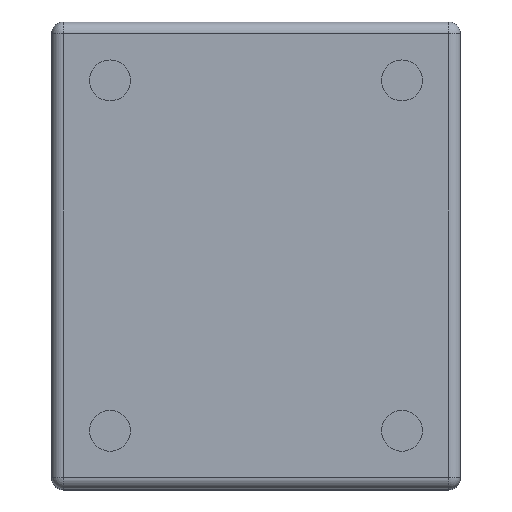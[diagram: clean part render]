
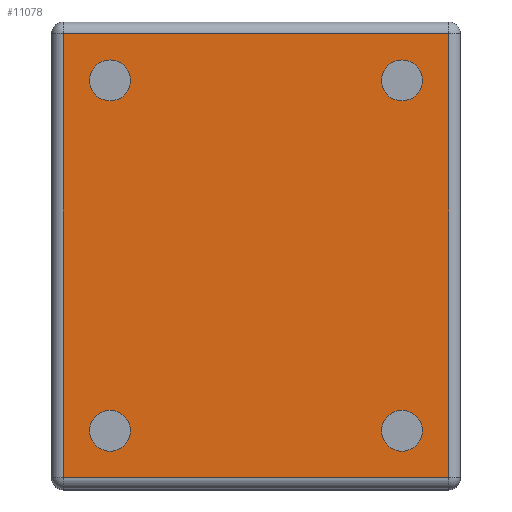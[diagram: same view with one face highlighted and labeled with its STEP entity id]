
A CAD part, front view. The second image highlights one B-rep face of the part: STEP entity #11078.
In plain terms, the highlighted planar face has unit normal (0, -1, 0).
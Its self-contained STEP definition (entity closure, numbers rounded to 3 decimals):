
#112 = EDGE_CURVE ( 'NONE', #21731, #16680, #22714, .T. ) ;
#190 = ORIENTED_EDGE ( 'NONE', *, *, #859, .T. ) ;
#498 = LINE ( 'NONE', #19846, #7107 ) ;
#504 = DIRECTION ( 'NONE',  ( 0., 0., -1. ) ) ;
#663 = VECTOR ( 'NONE', #13866, 1000. ) ;
#732 = ORIENTED_EDGE ( 'NONE', *, *, #975, .T. ) ;
#742 = DIRECTION ( 'NONE',  ( 0., 0., 1. ) ) ;
#849 = DIRECTION ( 'NONE',  ( 0., 1., 0. ) ) ;
#859 = EDGE_CURVE ( 'NONE', #16367, #14725, #20047, .T. ) ;
#861 = DIRECTION ( 'NONE',  ( 1., 0., 0. ) ) ;
#975 = EDGE_CURVE ( 'NONE', #10791, #6045, #7319, .T. ) ;
#1377 = CARTESIAN_POINT ( 'NONE',  ( -13.848, -20.235, -15. ) ) ;
#1452 = EDGE_CURVE ( 'NONE', #11351, #10791, #11499, .T. ) ;
#1457 = ORIENTED_EDGE ( 'NONE', *, *, #18374, .T. ) ;
#1527 = EDGE_CURVE ( 'NONE', #3736, #2205, #13597, .T. ) ;
#1622 = ORIENTED_EDGE ( 'NONE', *, *, #21999, .T. ) ;
#1653 = DIRECTION ( 'NONE',  ( 0., 1., 0. ) ) ;
#1674 = DIRECTION ( 'NONE',  ( 0., 0., 1. ) ) ;
#1755 = ORIENTED_EDGE ( 'NONE', *, *, #10442, .T. ) ;
#2035 = CARTESIAN_POINT ( 'NONE',  ( 11.152, -20.235, 13.25 ) ) ;
#2205 = VERTEX_POINT ( 'NONE', #8698 ) ;
#2459 = CARTESIAN_POINT ( 'NONE',  ( -17.848, -20.235, 19. ) ) ;
#2552 = AXIS2_PLACEMENT_3D ( 'NONE', #12633, #849, #14506 ) ;
#3192 = ORIENTED_EDGE ( 'NONE', *, *, #1452, .T. ) ;
#3501 = ORIENTED_EDGE ( 'NONE', *, *, #13126, .T. ) ;
#3630 = DIRECTION ( 'NONE',  ( 0., 0., 1. ) ) ;
#3717 = CARTESIAN_POINT ( 'NONE',  ( 11.152, -20.235, -15. ) ) ;
#3736 = VERTEX_POINT ( 'NONE', #5751 ) ;
#3876 = DIRECTION ( 'NONE',  ( 0., 1., 0. ) ) ;
#3962 = CARTESIAN_POINT ( 'NONE',  ( 11.152, -20.235, -15. ) ) ;
#3997 = EDGE_LOOP ( 'NONE', ( #14703, #12943 ) ) ;
#4171 = AXIS2_PLACEMENT_3D ( 'NONE', #17282, #5822, #19160 ) ;
#4516 = ORIENTED_EDGE ( 'NONE', *, *, #112, .T. ) ;
#5150 = VERTEX_POINT ( 'NONE', #5965 ) ;
#5231 = VECTOR ( 'NONE', #23777, 1000. ) ;
#5468 = CIRCLE ( 'NONE', #17883, 1.75 ) ;
#5737 = DIRECTION ( 'NONE',  ( 0., 0., 1. ) ) ;
#5751 = CARTESIAN_POINT ( 'NONE',  ( -13.848, -20.235, -13.25 ) ) ;
#5787 = CARTESIAN_POINT ( 'NONE',  ( 15.152, -20.235, -19. ) ) ;
#5822 = DIRECTION ( 'NONE',  ( 0., 1., 0. ) ) ;
#5965 = CARTESIAN_POINT ( 'NONE',  ( -13.848, -20.235, 16.75 ) ) ;
#6045 = VERTEX_POINT ( 'NONE', #21069 ) ;
#7107 = VECTOR ( 'NONE', #504, 1000. ) ;
#7319 = LINE ( 'NONE', #13497, #663 ) ;
#7698 = DIRECTION ( 'NONE',  ( 0., 1., 0. ) ) ;
#7805 = CARTESIAN_POINT ( 'NONE',  ( 11.152, -20.235, 15. ) ) ;
#8192 = EDGE_LOOP ( 'NONE', ( #11663, #4516 ) ) ;
#8304 = DIRECTION ( 'NONE',  ( 0., 0., 1. ) ) ;
#8605 = CARTESIAN_POINT ( 'NONE',  ( -18.848, -20.235, 19. ) ) ;
#8698 = CARTESIAN_POINT ( 'NONE',  ( -13.848, -20.235, -16.75 ) ) ;
#8808 = AXIS2_PLACEMENT_3D ( 'NONE', #17065, #9566, #22804 ) ;
#8951 = FACE_BOUND ( 'NONE', #3997, .T. ) ;
#9525 = EDGE_LOOP ( 'NONE', ( #1622, #24334 ) ) ;
#9566 = DIRECTION ( 'NONE',  ( 0., 1., 0. ) ) ;
#9937 = FACE_BOUND ( 'NONE', #21379, .T. ) ;
#10418 = VERTEX_POINT ( 'NONE', #2459 ) ;
#10442 = EDGE_CURVE ( 'NONE', #14725, #16367, #19385, .T. ) ;
#10677 = AXIS2_PLACEMENT_3D ( 'NONE', #23843, #12516, #742 ) ;
#10791 = VERTEX_POINT ( 'NONE', #5787 ) ;
#10822 = CARTESIAN_POINT ( 'NONE',  ( -13.848, -20.235, -15. ) ) ;
#10937 = CARTESIAN_POINT ( 'NONE',  ( -13.848, -20.235, 13.25 ) ) ;
#11078 = ADVANCED_FACE ( 'NONE', ( #20901, #9937, #19456, #16712, #8951 ), #18953, .F. ) ;
#11351 = VERTEX_POINT ( 'NONE', #16224 ) ;
#11390 = AXIS2_PLACEMENT_3D ( 'NONE', #3717, #17200, #5737 ) ;
#11499 = LINE ( 'NONE', #24902, #11524 ) ;
#11524 = VECTOR ( 'NONE', #861, 1000. ) ;
#11663 = ORIENTED_EDGE ( 'NONE', *, *, #14686, .T. ) ;
#12516 = DIRECTION ( 'NONE',  ( 0., 1., 0. ) ) ;
#12633 = CARTESIAN_POINT ( 'NONE',  ( -13.848, -20.235, 15. ) ) ;
#12759 = DIRECTION ( 'NONE',  ( 0., 0., 1. ) ) ;
#12943 = ORIENTED_EDGE ( 'NONE', *, *, #20347, .T. ) ;
#13126 = EDGE_CURVE ( 'NONE', #10418, #11351, #498, .T. ) ;
#13497 = CARTESIAN_POINT ( 'NONE',  ( 15.152, -20.235, -20. ) ) ;
#13597 = CIRCLE ( 'NONE', #15130, 1.75 ) ;
#13866 = DIRECTION ( 'NONE',  ( 0., 0., 1. ) ) ;
#14042 = AXIS2_PLACEMENT_3D ( 'NONE', #3962, #3876, #3630 ) ;
#14506 = DIRECTION ( 'NONE',  ( 0., 0., 1. ) ) ;
#14686 = EDGE_CURVE ( 'NONE', #16680, #21731, #21501, .T. ) ;
#14703 = ORIENTED_EDGE ( 'NONE', *, *, #1527, .T. ) ;
#14725 = VERTEX_POINT ( 'NONE', #15290 ) ;
#15130 = AXIS2_PLACEMENT_3D ( 'NONE', #1377, #1653, #1674 ) ;
#15290 = CARTESIAN_POINT ( 'NONE',  ( 11.152, -20.235, 16.75 ) ) ;
#15467 = EDGE_LOOP ( 'NONE', ( #3501, #3192, #732, #1457 ) ) ;
#16224 = CARTESIAN_POINT ( 'NONE',  ( -17.848, -20.235, -19. ) ) ;
#16323 = EDGE_CURVE ( 'NONE', #24957, #5150, #18195, .T. ) ;
#16367 = VERTEX_POINT ( 'NONE', #2035 ) ;
#16680 = VERTEX_POINT ( 'NONE', #20951 ) ;
#16712 = FACE_BOUND ( 'NONE', #9525, .T. ) ;
#17065 = CARTESIAN_POINT ( 'NONE',  ( -18.848, -20.235, -20. ) ) ;
#17200 = DIRECTION ( 'NONE',  ( 0., 1., 0. ) ) ;
#17282 = CARTESIAN_POINT ( 'NONE',  ( -13.848, -20.235, 15. ) ) ;
#17883 = AXIS2_PLACEMENT_3D ( 'NONE', #10822, #24067, #12759 ) ;
#18195 = CIRCLE ( 'NONE', #4171, 1.75 ) ;
#18222 = CIRCLE ( 'NONE', #2552, 1.75 ) ;
#18374 = EDGE_CURVE ( 'NONE', #6045, #10418, #20474, .T. ) ;
#18590 = AXIS2_PLACEMENT_3D ( 'NONE', #7805, #7698, #8304 ) ;
#18953 = PLANE ( 'NONE',  #8808 ) ;
#19160 = DIRECTION ( 'NONE',  ( 0., 0., 1. ) ) ;
#19385 = CIRCLE ( 'NONE', #10677, 1.75 ) ;
#19456 = FACE_BOUND ( 'NONE', #8192, .T. ) ;
#19846 = CARTESIAN_POINT ( 'NONE',  ( -17.848, -20.235, -20. ) ) ;
#20047 = CIRCLE ( 'NONE', #18590, 1.75 ) ;
#20347 = EDGE_CURVE ( 'NONE', #2205, #3736, #5468, .T. ) ;
#20474 = LINE ( 'NONE', #8605, #5231 ) ;
#20901 = FACE_OUTER_BOUND ( 'NONE', #15467, .T. ) ;
#20951 = CARTESIAN_POINT ( 'NONE',  ( 11.152, -20.235, -13.25 ) ) ;
#21005 = CARTESIAN_POINT ( 'NONE',  ( 11.152, -20.235, -16.75 ) ) ;
#21069 = CARTESIAN_POINT ( 'NONE',  ( 15.152, -20.235, 19. ) ) ;
#21379 = EDGE_LOOP ( 'NONE', ( #1755, #190 ) ) ;
#21501 = CIRCLE ( 'NONE', #11390, 1.75 ) ;
#21731 = VERTEX_POINT ( 'NONE', #21005 ) ;
#21999 = EDGE_CURVE ( 'NONE', #5150, #24957, #18222, .T. ) ;
#22714 = CIRCLE ( 'NONE', #14042, 1.75 ) ;
#22804 = DIRECTION ( 'NONE',  ( 0., 0., 1. ) ) ;
#23777 = DIRECTION ( 'NONE',  ( -1., 0., 0. ) ) ;
#23843 = CARTESIAN_POINT ( 'NONE',  ( 11.152, -20.235, 15. ) ) ;
#24067 = DIRECTION ( 'NONE',  ( 0., 1., 0. ) ) ;
#24334 = ORIENTED_EDGE ( 'NONE', *, *, #16323, .T. ) ;
#24902 = CARTESIAN_POINT ( 'NONE',  ( -18.848, -20.235, -19. ) ) ;
#24957 = VERTEX_POINT ( 'NONE', #10937 ) ;
